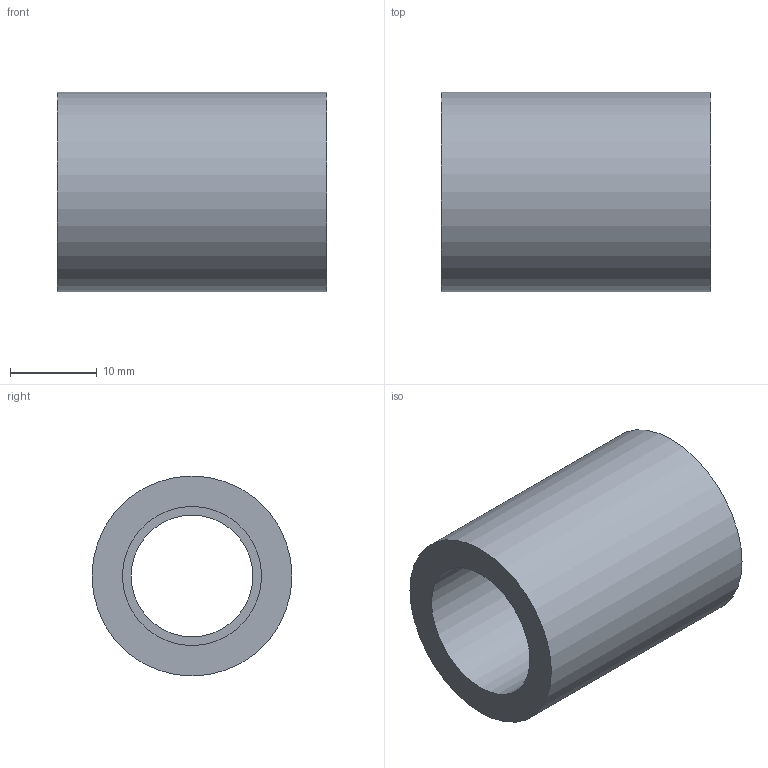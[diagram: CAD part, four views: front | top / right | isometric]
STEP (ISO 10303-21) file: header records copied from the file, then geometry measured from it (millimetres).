
FILE_DESCRIPTION(/* description */ ('PVC manicotti metrici incollaggio'),/* implementation_level */ '2;1');
FILE_NAME(/* name */ 'C:\Users\POLYPIPE\Desktop\DATASET INVENTOR\LIBRERIA EFFAST\RACCORDI 3DxWEB\RDR\3D_RDRMAD\3D_RDRMAD0160.stp',/* time_stamp */ '2018-01-19T14:38:05+01:00',/* author */ ('POLYPIPE'),/* organization */ ('Polypipe Italia s.r.l.'),/* preprocessor_version */ 'ST-DEVELOPER v16.1',/* originating_system */ 'Autodesk Inventor 2016',/* authorisation */ '');
FILE_SCHEMA (('CONFIG_CONTROL_DESIGN'));
Length unit declared in the file: millimetre
Products named in the file (1): 3D_RDRMAD
Bounding box: 31 x 23 x 23 mm (x, y, z)
Volume: 6788.2 mm3; surface area: 4302.4 mm2
Topology: 1 solids, 1 shells, 8 faces, 12 edges, 8 vertices
Faces by surface type: cylinder 4, plane 4
Full cylindrical faces by diameter (mm): 14 x1, 16 x2, 23 x1
Entity records: 192 total; most frequent: DIRECTION 34, CARTESIAN_POINT 25, AXIS2_PLACEMENT_3D 17, EDGE_LOOP 16, ORIENTED_EDGE 16, FACE_BOUND 8, FACE_OUTER_BOUND 8, CIRCLE 8
